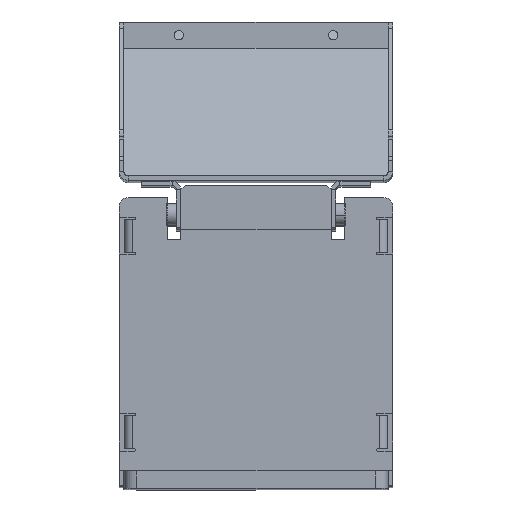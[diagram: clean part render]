
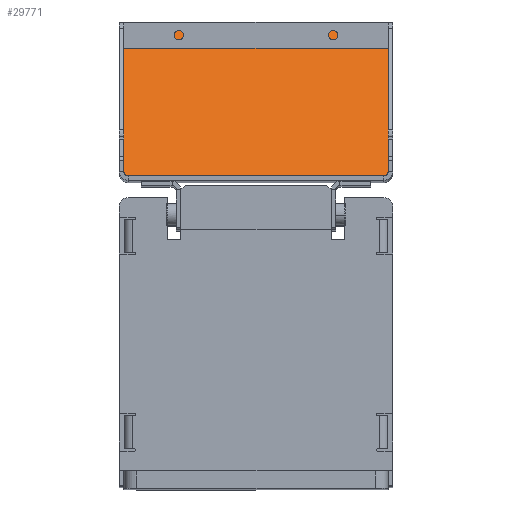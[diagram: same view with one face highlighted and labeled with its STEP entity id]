
A CAD part, top view. The second image highlights one B-rep face of the part: STEP entity #29771.
In plain terms, the highlighted planar face has unit normal (0, 0.5, 0.866) as drawn and (0, 0.5, -0.866) by its records, which use the part's own axes.
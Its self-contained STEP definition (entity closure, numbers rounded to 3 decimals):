
#151 = ORIENTED_EDGE ( 'NONE', *, *, #736, .F. ) ;
#736 = EDGE_CURVE ( 'NONE', #751, #17562, #24112, .T. ) ;
#751 = VERTEX_POINT ( 'NONE', #11957 ) ;
#992 = CARTESIAN_POINT ( 'NONE',  ( -58., 1., 611.732 ) ) ;
#1648 = DIRECTION ( 'NONE',  ( 1., 0., 0. ) ) ;
#1679 = LINE ( 'NONE', #6761, #20935 ) ;
#2543 = EDGE_CURVE ( 'NONE', #17562, #24634, #17394, .T. ) ;
#2599 = ORIENTED_EDGE ( 'NONE', *, *, #7831, .F. ) ;
#2607 = CARTESIAN_POINT ( 'NONE',  ( -59.65, 1., 611.732 ) ) ;
#3098 = VECTOR ( 'NONE', #1648, 1000. ) ;
#3488 = DIRECTION ( 'NONE',  ( 0., 0.866, 0.5 ) ) ;
#4042 = CARTESIAN_POINT ( 'NONE',  ( 59.929, 70.001, 651.57 ) ) ;
#6761 = CARTESIAN_POINT ( 'NONE',  ( -58., 70.001, 651.57 ) ) ;
#7521 = VERTEX_POINT ( 'NONE', #15538 ) ;
#7831 = EDGE_CURVE ( 'NONE', #26828, #12796, #1679, .T. ) ;
#7867 = CARTESIAN_POINT ( 'NONE',  ( -59.775, 1.245, 611.874 ) ) ;
#10018 = CARTESIAN_POINT ( 'NONE',  ( 59.65, 1., 611.732 ) ) ;
#10055 = CARTESIAN_POINT ( 'NONE',  ( -59.929, 70.001, 651.57 ) ) ;
#10507 = ORIENTED_EDGE ( 'NONE', *, *, #31715, .T. ) ;
#11905 = FACE_OUTER_BOUND ( 'NONE', #15641, .T. ) ;
#11957 = CARTESIAN_POINT ( 'NONE',  ( -59.65, 1., 611.732 ) ) ;
#11965 = VECTOR ( 'NONE', #31306, 1000. ) ;
#12380 = CARTESIAN_POINT ( 'NONE',  ( 59.692, 1.083, 611.78 ) ) ;
#12796 = VERTEX_POINT ( 'NONE', #10055 ) ;
#12918 = CARTESIAN_POINT ( 'NONE',  ( -59.692, 1.083, 611.78 ) ) ;
#14328 = EDGE_CURVE ( 'NONE', #24634, #26828, #17968, .T. ) ;
#15538 = CARTESIAN_POINT ( 'NONE',  ( -59.929, 2., 612.309 ) ) ;
#15641 = EDGE_LOOP ( 'NONE', ( #2599, #28262, #23846, #151, #10507, #17771 ) ) ;
#16316 = CARTESIAN_POINT ( 'NONE',  ( -59.929, 1., 611.732 ) ) ;
#16752 = EDGE_CURVE ( 'NONE', #7521, #12796, #18833, .T. ) ;
#17394 = B_SPLINE_CURVE_WITH_KNOTS ( 'NONE', 3,
 ( #10018, #12380, #24868, #33136, #32801, #30611, #17441 ),
 .UNSPECIFIED., .F., .F.,
 ( 4, 1, 1, 1, 4 ),
 ( 0., 0.261, 0.513, 0.758, 1. ),
 .UNSPECIFIED. ) ;
#17441 = CARTESIAN_POINT ( 'NONE',  ( 59.929, 2., 612.309 ) ) ;
#17562 = VERTEX_POINT ( 'NONE', #20409 ) ;
#17771 = ORIENTED_EDGE ( 'NONE', *, *, #16752, .T. ) ;
#17968 = LINE ( 'NONE', #28291, #11965 ) ;
#18139 = CARTESIAN_POINT ( 'NONE',  ( -59.919, 1.748, 612.164 ) ) ;
#18374 = CARTESIAN_POINT ( 'NONE',  ( 59.929, 2., 612.309 ) ) ;
#18833 = LINE ( 'NONE', #16316, #24339 ) ;
#19640 = PLANE ( 'NONE',  #32141 ) ;
#19801 = DIRECTION ( 'NONE',  ( 0., 0.5, -0.866 ) ) ;
#20409 = CARTESIAN_POINT ( 'NONE',  ( 59.65, 1., 611.732 ) ) ;
#20831 = CARTESIAN_POINT ( 'NONE',  ( -59.862, 1.497, 612.019 ) ) ;
#20935 = VECTOR ( 'NONE', #27366, 1000. ) ;
#23846 = ORIENTED_EDGE ( 'NONE', *, *, #2543, .F. ) ;
#24112 = LINE ( 'NONE', #992, #3098 ) ;
#24339 = VECTOR ( 'NONE', #3488, 1000. ) ;
#24634 = VERTEX_POINT ( 'NONE', #18374 ) ;
#24868 = CARTESIAN_POINT ( 'NONE',  ( 59.775, 1.245, 611.874 ) ) ;
#25565 = B_SPLINE_CURVE_WITH_KNOTS ( 'NONE', 3,
 ( #2607, #12918, #7867, #20831, #18139, #28454, #30210 ),
 .UNSPECIFIED., .F., .F.,
 ( 4, 1, 1, 1, 4 ),
 ( 0., 0.261, 0.513, 0.758, 1. ),
 .UNSPECIFIED. ) ;
#26828 = VERTEX_POINT ( 'NONE', #4042 ) ;
#27366 = DIRECTION ( 'NONE',  ( -1., 0., 0. ) ) ;
#27765 = DIRECTION ( 'NONE',  ( 0., 0.866, 0.5 ) ) ;
#28262 = ORIENTED_EDGE ( 'NONE', *, *, #14328, .F. ) ;
#28291 = CARTESIAN_POINT ( 'NONE',  ( 59.929, 1., 611.732 ) ) ;
#28454 = CARTESIAN_POINT ( 'NONE',  ( -59.926, 1.916, 612.261 ) ) ;
#29771 = ADVANCED_FACE ( 'NONE', ( #11905 ), #19640, .T. ) ;
#30210 = CARTESIAN_POINT ( 'NONE',  ( -59.929, 2., 612.309 ) ) ;
#30611 = CARTESIAN_POINT ( 'NONE',  ( 59.926, 1.916, 612.261 ) ) ;
#30626 = CARTESIAN_POINT ( 'NONE',  ( 0., -264.138, 458.655 ) ) ;
#31306 = DIRECTION ( 'NONE',  ( 0., 0.866, 0.5 ) ) ;
#31715 = EDGE_CURVE ( 'NONE', #751, #7521, #25565, .T. ) ;
#32141 = AXIS2_PLACEMENT_3D ( 'NONE', #30626, #19801, #27765 ) ;
#32801 = CARTESIAN_POINT ( 'NONE',  ( 59.919, 1.748, 612.164 ) ) ;
#33136 = CARTESIAN_POINT ( 'NONE',  ( 59.862, 1.497, 612.019 ) ) ;
